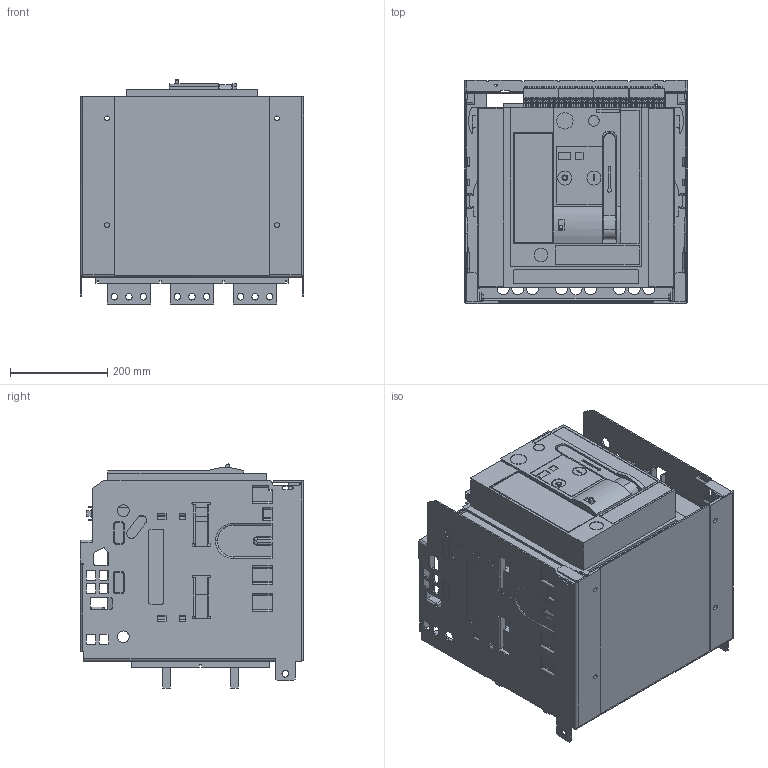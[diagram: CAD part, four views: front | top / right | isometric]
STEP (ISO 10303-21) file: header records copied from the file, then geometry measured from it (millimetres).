
FILE_DESCRIPTION (( 'STEP AP214' ), '1' );
FILE_NAME ('ARION_WL1225-___36.step', '2012-01-11T11:41:46', ( 'Radek Veselý' ), ( 'Siemens and Partners' ), 'SwSTEP 2.0', 'SolidWorks 2006303', '' );
FILE_SCHEMA (( 'AUTOMOTIVE_DESIGN' ));
Length unit declared in the file: millimetre
Products named in the file (1): ARION_WL1225-___36
Bounding box: 460 x 460 x 461.66 mm (x, y, z)
Volume: 48544284.3 mm3; surface area: 2910978 mm2
Topology: 9 solids, 9 shells, 3148 faces, 8352 edges, 5521 vertices
Faces by surface type: plane 2536, cylinder 597, torus 13, bspline 2
Entity records: 131863 total; most frequent: CARTESIAN_POINT 17212, ORIENTED_EDGE 16700, DIRECTION 15850, EDGE_CURVE 8350, VECTOR 7108, LINE 7108, VERTEX_POINT 5521, AXIS2_PLACEMENT_3D 4371
